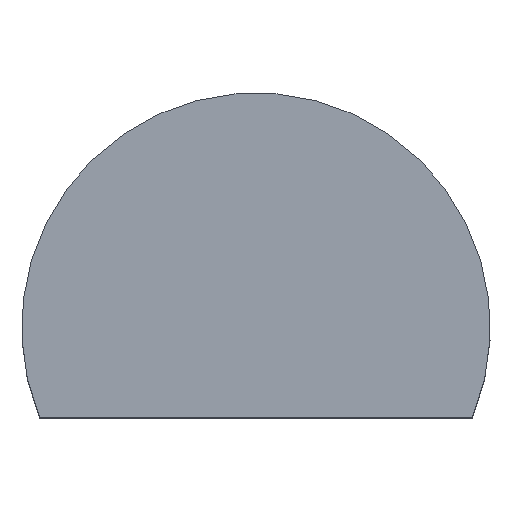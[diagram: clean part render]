
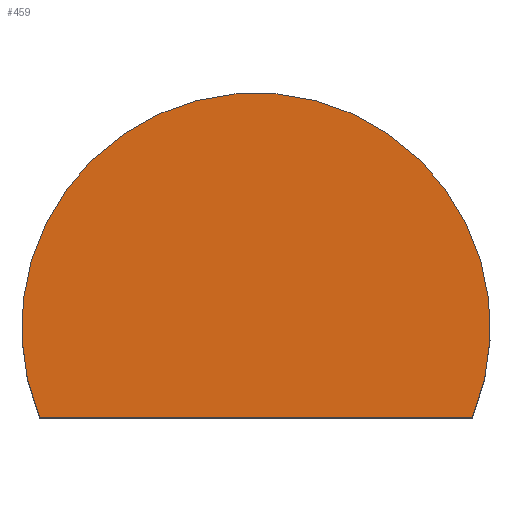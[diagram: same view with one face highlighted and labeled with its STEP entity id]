
A CAD part, top view. The second image highlights one B-rep face of the part: STEP entity #459.
In plain terms, the highlighted planar face has unit normal (0, 0, 1).
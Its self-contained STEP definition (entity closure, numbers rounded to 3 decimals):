
#378=CARTESIAN_POINT('',(3.556,-0.952,4.953));
#377=VERTEX_POINT('',#378);
#388=CARTESIAN_POINT('',(-1.016,-0.952,4.953));
#387=VERTEX_POINT('',#388);
#386=EDGE_CURVE('',#387,#377,#391,.T.);
#391=LINE('',#388,#393);
#393=VECTOR('',#394,4.572);
#394=DIRECTION('',(1.0,0.0,0.0));
#415=EDGE_CURVE($,#377,#387,#420,.T.);
#420=CIRCLE($,#421,2.477);
#422=CARTESIAN_POINT('',(1.27,0.0,4.953));
#421=AXIS2_PLACEMENT_3D($,#422,#423,#424);
#423=DIRECTION('',(0.0,0.0,1.0));
#424=DIRECTION('',(-1.0,0.0,0.0));
#459=ADVANCED_FACE($,(#465),#460,.T.);
#460=PLANE($,#461);
#461=AXIS2_PLACEMENT_3D($,#462,#463,#464);
#462=CARTESIAN_POINT('',(1.27,0.0,4.953));
#463=DIRECTION('',(0.,0.,1.));
#464=DIRECTION('',(1.,0.,0.));
#465=FACE_OUTER_BOUND($,#466,.T.);
#466=EDGE_LOOP($,(#467, #478));
#467=ORIENTED_EDGE('',*,*,#386,.T.);
#478=ORIENTED_EDGE('',*,*,#415,.T.);
